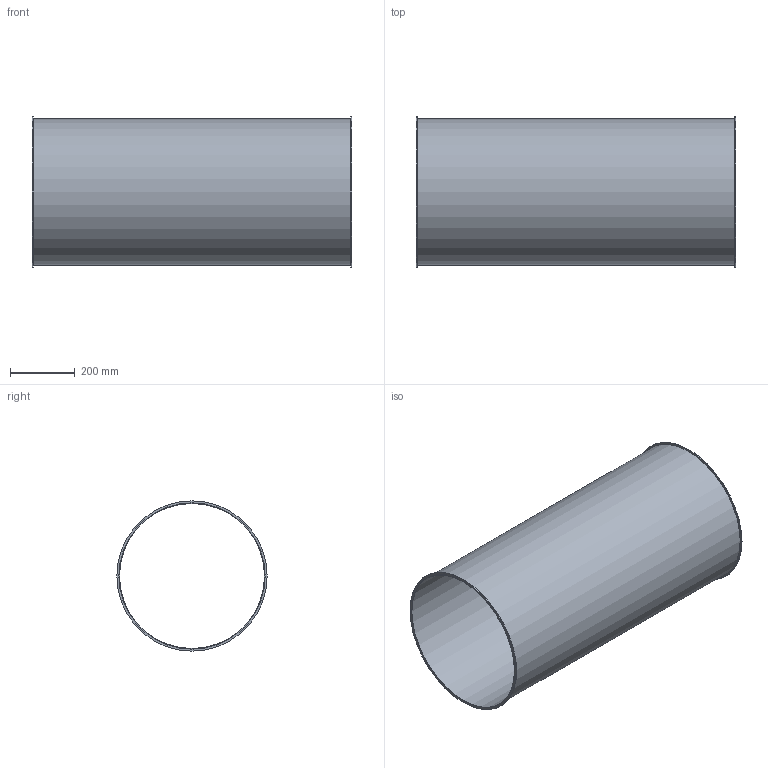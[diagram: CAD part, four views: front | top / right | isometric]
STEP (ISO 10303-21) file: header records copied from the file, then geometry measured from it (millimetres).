
FILE_DESCRIPTION((''),'2;1');
FILE_NAME('U:\Wolfgang\Marcel-3D\fertig\Kapitel 1\4521002.stp','2010-05-31T12:38:26',('TK2'),(''),'Autodesk Inventor 2010','Autodesk Inventor 2010','');
FILE_SCHEMA(('AUTOMOTIVE_DESIGN { 1 0 10303 214 1 1 1 1 }'));
Length unit declared in the file: millimetre
Products named in the file (1): 4521002
Bounding box: 986 x 464 x 464 mm (x, y, z)
Volume: 2822381.7 mm3; surface area: 2828187.4 mm2
Topology: 1 solids, 1 shells, 8 faces, 12 edges, 8 vertices
Faces by surface type: cylinder 4, plane 4
Full cylindrical faces by diameter (mm): 448 x1, 452 x1, 464 x2
Entity records: 194 total; most frequent: DIRECTION 34, CARTESIAN_POINT 25, AXIS2_PLACEMENT_3D 17, ORIENTED_EDGE 16, EDGE_LOOP 16, VERTEX_POINT 8, CIRCLE 8, EDGE_CURVE 8
